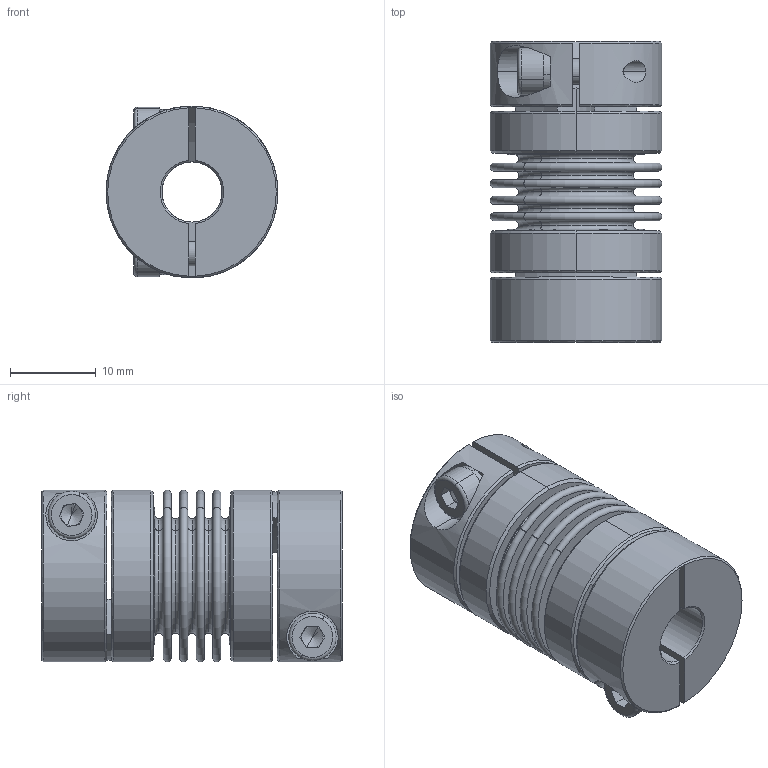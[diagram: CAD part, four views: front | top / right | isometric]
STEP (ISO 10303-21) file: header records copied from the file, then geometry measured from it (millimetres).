
FILE_DESCRIPTION (( 'STEP AP203' ), '1' );
FILE_NAME ('LB-B-D20L34-7-7.STEP', '2021-11-04T01:42:39', ( '' ), ( '' ), 'SwSTEP 2.0', 'SolidWorks 2018', '' );
FILE_SCHEMA (( 'CONFIG_CONTROL_DESIGN' ));
Length unit declared in the file: millimetre
Products named in the file (2): 零件4^LB-B-D20L34 波纹管联轴器-组装体; LB-B-D20L34-7-7
Assembly tree (1 placements, depth 2):
  LB-B-D20L34-7-7
    零件4^LB-B-D20L34 波纹管联轴器-组装体
Bounding box: 20 x 35 x 20 mm (x, y, z)
Volume: 5921.9 mm3; surface area: 9527.8 mm2
Topology: 1 solids, 1 shells, 246 faces, 566 edges, 350 vertices
Faces by surface type: plane 84, torus 68, cylinder 60, cone 34
Entity records: 7446 total; most frequent: CARTESIAN_POINT 1462, DIRECTION 1370, ORIENTED_EDGE 1124, AXIS2_PLACEMENT_3D 602, EDGE_CURVE 562, CIRCLE 352, VERTEX_POINT 350, EDGE_LOOP 288
